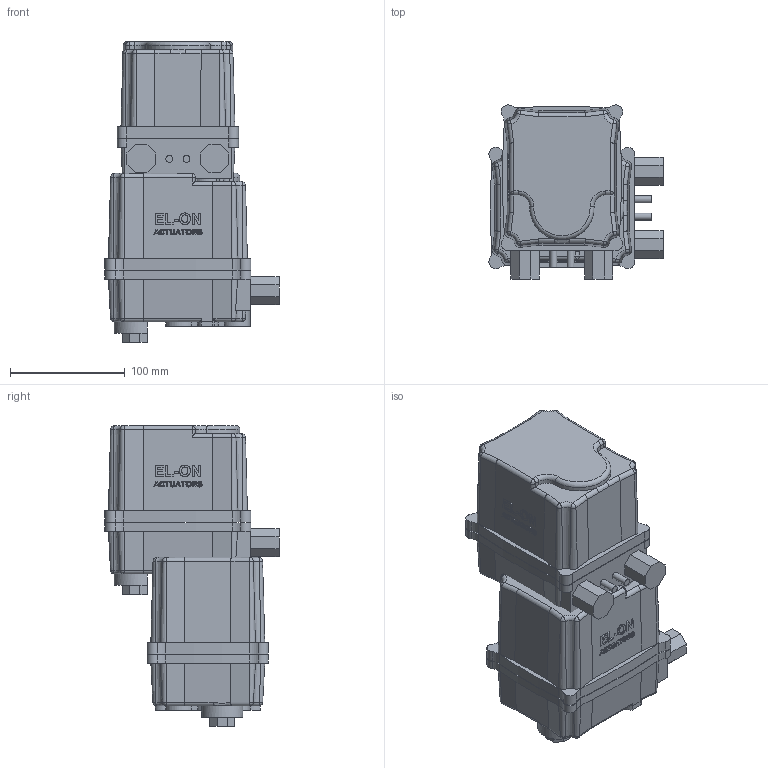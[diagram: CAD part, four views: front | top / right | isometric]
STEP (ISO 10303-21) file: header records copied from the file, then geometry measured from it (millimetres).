
FILE_DESCRIPTION( ( 'Unknown' ), '1' );
FILE_NAME( 'J:/Muud/ROOTSI BPS 3D vidinad/Kuulkraanid/Roostevaba kuulkraanid/Ball valve BPS 2411/Ball valve with electric actuator BPS/STEP formaat/BPS 2411040E ball valve DN40.stp', 'Unknown', ( 'Unknown' ), ( 'Unknown' ), 'PSStep 10.1', 'Unknown', ' ' );
FILE_SCHEMA( ( 'AUTOMOTIVE_DESIGN { 1 0 10303 214 1 1 1 1 }' ) );
Length unit declared in the file: millimetre
Products named in the file (4): Assem1; BPS 2411040 ball valve DN40; BPS 8005058 electric actuator DN40-100
Bounding box: 151.5 x 151.5 x 261.7 mm (x, y, z)
Volume: 3533601.4 mm3; surface area: 341497.8 mm2
Topology: 6 solids, 6 shells, 1126 faces, 2918 edges, 1892 vertices
Faces by surface type: plane 450, cylinder 264, extrusion 190, bspline 114, cone 82, torus 26
Full cylindrical faces by diameter (mm): 4.134 x16, 4.917 x8, 6 x4, 6.647 x8, 33 x2, 38 x2, 42 x2, 44.845 x4, 73 x2
Entity records: 30986 total; most frequent: CARTESIAN_POINT 14067, ORIENTED_EDGE 2684, DIRECTION 2084, EDGE_CURVE 1342, VERTEX_POINT 914, VECTOR 708, AXIS2_PLACEMENT_3D 688, EDGE_LOOP 682
